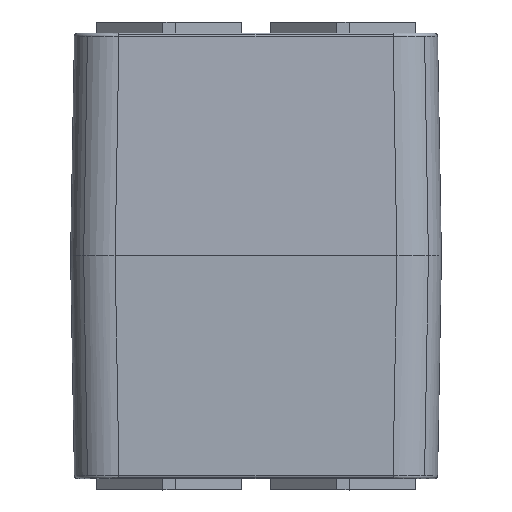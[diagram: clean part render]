
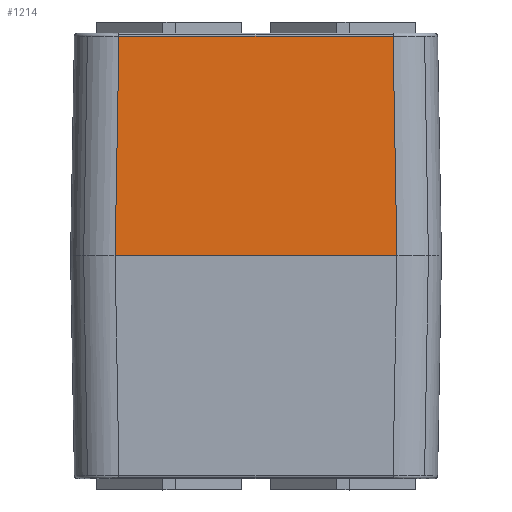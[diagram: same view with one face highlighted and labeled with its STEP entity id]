
A CAD part, top view. The second image highlights one B-rep face of the part: STEP entity #1214.
In plain terms, the highlighted planar face has unit normal (0, 0.018, 1).
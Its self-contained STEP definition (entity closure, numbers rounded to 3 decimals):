
#140=CARTESIAN_POINT('',(-59.749,100.0,79.746));
#141=VERTEX_POINT('',#140);
#149=CARTESIAN_POINT('',(-58.029,198.526,78.026));
#150=VERTEX_POINT('',#149);
#151=CARTESIAN_POINT('',(-59.749,100.0,79.746));
#152=DIRECTION('',(0.017,1.,-0.017));
#153=VECTOR('',#152,98.556);
#154=LINE('',#151,#153);
#155=EDGE_CURVE('',#141,#150,#154,.T.);
#728=CARTESIAN_POINT('',(65.029,198.526,78.026));
#729=VERTEX_POINT('',#728);
#730=CARTESIAN_POINT('',(-58.029,198.526,78.026));
#731=DIRECTION('',(1.0,0.0,0.0));
#732=VECTOR('',#731,123.058);
#733=LINE('',#730,#732);
#734=EDGE_CURVE('',#150,#729,#733,.T.);
#1180=CARTESIAN_POINT('',(66.749,100.0,79.746));
#1181=VERTEX_POINT('',#1180);
#1182=CARTESIAN_POINT('',(65.029,198.526,78.026));
#1183=DIRECTION('',(0.017,-1.,0.017));
#1184=VECTOR('',#1183,98.556);
#1185=LINE('',#1182,#1184);
#1186=EDGE_CURVE('',#729,#1181,#1185,.T.);
#1198=CARTESIAN_POINT('',(85.0,0.03,81.49));
#1199=DIRECTION('',(0.,0.017,1.));
#1200=DIRECTION('',(1.0,0.0,0.0));
#1201=AXIS2_PLACEMENT_3D('',#1198,#1199,#1200);
#1202=PLANE('',#1201);
#1203=ORIENTED_EDGE('',*,*,#734,.F.);
#1204=ORIENTED_EDGE('',*,*,#155,.F.);
#1205=CARTESIAN_POINT('',(-59.749,100.0,79.746));
#1206=DIRECTION('',(1.0,0.0,0.0));
#1207=VECTOR('',#1206,126.497);
#1208=LINE('',#1205,#1207);
#1209=EDGE_CURVE('',#1181,#141,#1208,.F.);
#1210=ORIENTED_EDGE('',*,*,#1209,.F.);
#1211=ORIENTED_EDGE('',*,*,#1186,.F.);
#1212=EDGE_LOOP('',(#1203,#1204,#1210,#1211));
#1213=FACE_OUTER_BOUND('',#1212,.T.);
#1214=ADVANCED_FACE('',(#1213),#1202,.T.);
